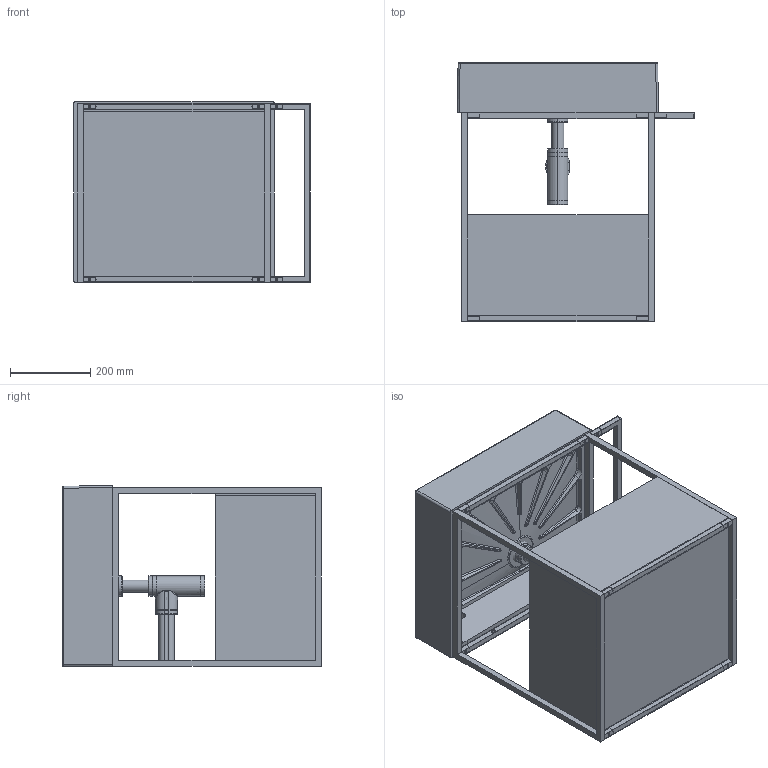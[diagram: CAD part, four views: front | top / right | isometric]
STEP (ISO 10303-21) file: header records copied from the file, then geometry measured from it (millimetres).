
FILE_DESCRIPTION (( 'STEP AP203' ), '1' );
FILE_NAME ('MSQ 50.STEP', '2019-02-05T15:17:05', ( '' ), ( '' ), 'SwSTEP 2.0', 'SolidWorks 2019', '' );
FILE_SCHEMA (( 'CONFIG_CONTROL_DESIGN' ));
Length unit declared in the file: millimetre
Products named in the file (16): STRUCTURE C50 fix; AssiemeSTRUCTURE LATERALE; ELLP050450Q0; AssiemeSTRUCTURE50; MSQ 50; STRUCTURE B; CASSETTOcassetto50; vite; cassetto50; STRUCTURE A; SIFONE LAVABO SOSPESO; STRUCTURE C50; CASSETTOscocca50; STRUCTURE M; grano
Assembly tree (46 placements, depth 4):
  MSQ 50
    AssiemeSTRUCTURE50
      STRUCTURE C50 fix
      AssiemeSTRUCTURE LATERALE
        STRUCTURE A
        STRUCTURE B  x4
        vite  x4
        grano  x4
      AssiemeSTRUCTURE LATERALE
        STRUCTURE A
        STRUCTURE B  x4
        vite  x4
        grano  x4
      STRUCTURE C50  x3
      STRUCTURE B  x2
      vite  x2
      grano  x2
      STRUCTURE M
    cassetto50
      CASSETTOscocca50
      CASSETTOcassetto50
    ELLP050450Q0
    SIFONE LAVABO SOSPESO  x2
Bounding box: 590 x 645 x 450 mm (x, y, z)
Volume: 29886958.5 mm3; surface area: 3951731.7 mm2
Topology: 42 solids, 42 shells, 1091 faces, 2671 edges, 1698 vertices
Faces by surface type: plane 568, cylinder 271, bspline 128, torus 66, sphere 30, cone 28
Entity records: 33376 total; most frequent: CARTESIAN_POINT 19387, ORIENTED_EDGE 2556, DIRECTION 2192, EDGE_CURVE 1278, AXIS2_PLACEMENT_3D 822, VERTEX_POINT 796, EDGE_LOOP 574, LINE 548
